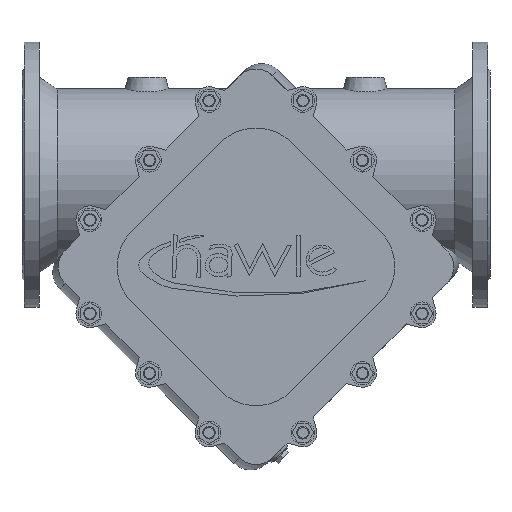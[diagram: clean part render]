
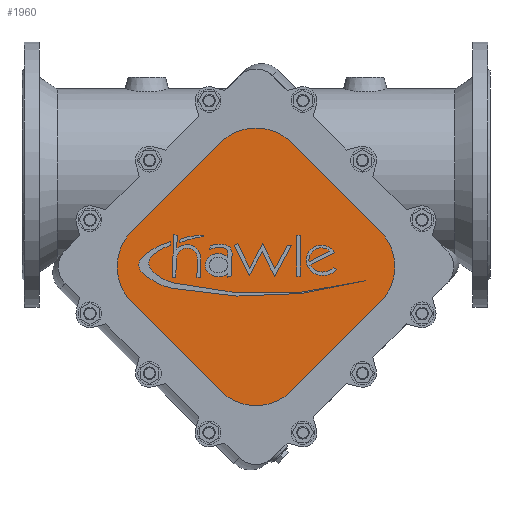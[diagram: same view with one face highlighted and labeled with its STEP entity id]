
A CAD part, front view. The second image highlights one B-rep face of the part: STEP entity #1960.
In plain terms, the highlighted planar face has unit normal (0, -1, 0).
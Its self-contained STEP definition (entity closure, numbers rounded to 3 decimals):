
#1960=ADVANCED_FACE('',(#3883),#3884,.T.);
#3883=FACE_OUTER_BOUND('',#6296,.T.);
#3884=PLANE('',#6297);
#6296=EDGE_LOOP('',(#9777,#9778,#9779,#9780,#9781,#9782,#9783,#9784,#9785,#9786));
#6297=AXIS2_PLACEMENT_3D('',#9787,#9788,#9789);
#9777=ORIENTED_EDGE('',*,*,#13837,.F.);
#9778=ORIENTED_EDGE('',*,*,#13619,.F.);
#9779=ORIENTED_EDGE('',*,*,#13643,.F.);
#9780=ORIENTED_EDGE('',*,*,#14113,.F.);
#9781=ORIENTED_EDGE('',*,*,#14114,.F.);
#9782=ORIENTED_EDGE('',*,*,#14115,.F.);
#9783=ORIENTED_EDGE('',*,*,#13047,.F.);
#9784=ORIENTED_EDGE('',*,*,#13658,.F.);
#9785=ORIENTED_EDGE('',*,*,#13798,.F.);
#9786=ORIENTED_EDGE('',*,*,#14116,.F.);
#9787=CARTESIAN_POINT('',(-300.,-190.0,-118.));
#9788=DIRECTION('',(0.0,-1.0,0.0));
#9789=DIRECTION('',(1.0,0.0,0.0));
#13047=EDGE_CURVE('',#15324,#15326,#15327,.T.);
#13619=EDGE_CURVE('',#16279,#16282,#16283,.T.);
#13643=EDGE_CURVE('',#16320,#16279,#16322,.T.);
#13658=EDGE_CURVE('',#16341,#15324,#16343,.T.);
#13798=EDGE_CURVE('',#16563,#16341,#16564,.T.);
#13837=EDGE_CURVE('',#16282,#16622,#16623,.T.);
#14113=EDGE_CURVE('',#17020,#16320,#17021,.T.);
#14114=EDGE_CURVE('',#17022,#17020,#17023,.T.);
#14115=EDGE_CURVE('',#15326,#17022,#17024,.T.);
#14116=EDGE_CURVE('',#16622,#16563,#17025,.T.);
#15324=VERTEX_POINT('',#18464);
#15326=VERTEX_POINT('',#18467);
#15327=CIRCLE('',#18468,65.0);
#16279=VERTEX_POINT('',#19972);
#16282=VERTEX_POINT('',#19976);
#16283=CIRCLE('',#19977,65.0);
#16320=VERTEX_POINT('',#20025);
#16322=CIRCLE('',#20028,65.0);
#16341=VERTEX_POINT('',#20054);
#16343=CIRCLE('',#20057,65.0);
#16563=VERTEX_POINT('',#20594);
#16564=LINE('',#20595,#20596);
#16622=VERTEX_POINT('',#20670);
#16623=LINE('',#20671,#20672);
#17020=VERTEX_POINT('',#21373);
#17021=LINE('',#21374,#21375);
#17022=VERTEX_POINT('',#21376);
#17023=CIRCLE('',#21377,65.);
#17024=LINE('',#21378,#21379);
#17025=CIRCLE('',#21380,65.);
#18464=CARTESIAN_POINT('',(-122.,-190.0,-118.0));
#18467=CARTESIAN_POINT('',(-141.038,-190.0,-163.962));
#18468=AXIS2_PLACEMENT_3D('',#23048,#23049,#23050);
#19972=CARTESIAN_POINT('',(-478.,-190.0,-118.0));
#19976=CARTESIAN_POINT('',(-458.962,-190.0,-72.038));
#19977=AXIS2_PLACEMENT_3D('',#23794,#23795,#23796);
#20025=CARTESIAN_POINT('',(-458.962,-190.0,-163.962));
#20028=AXIS2_PLACEMENT_3D('',#23827,#23828,#23829);
#20054=CARTESIAN_POINT('',(-141.038,-190.0,-72.038));
#20057=AXIS2_PLACEMENT_3D('',#23841,#23842,#23843);
#20594=CARTESIAN_POINT('',(-254.038,-190.0,40.962));
#20595=CARTESIAN_POINT('',(-141.038,-190.0,-72.038));
#20596=VECTOR('',#24021,1.0);
#20670=CARTESIAN_POINT('',(-345.962,-190.0,40.962));
#20671=CARTESIAN_POINT('',(-345.962,-190.0,40.962));
#20672=VECTOR('',#24068,1.0);
#21373=CARTESIAN_POINT('',(-345.962,-190.0,-276.962));
#21374=CARTESIAN_POINT('',(-458.962,-190.0,-163.962));
#21375=VECTOR('',#24455,1.0);
#21376=CARTESIAN_POINT('',(-254.038,-190.0,-276.962));
#21377=AXIS2_PLACEMENT_3D('',#24456,#24457,#24458);
#21378=CARTESIAN_POINT('',(-254.038,-190.0,-276.962));
#21379=VECTOR('',#24459,1.0);
#21380=AXIS2_PLACEMENT_3D('',#24460,#24461,#24462);
#23048=CARTESIAN_POINT('',(-187.,-190.0,-118.0));
#23049=DIRECTION('',(-0.0,1.0,0.0));
#23050=DIRECTION('',(1.0,0.0,0.0));
#23794=CARTESIAN_POINT('',(-413.,-190.0,-118.0));
#23795=DIRECTION('',(-0.0,1.0,0.0));
#23796=DIRECTION('',(1.0,0.0,0.0));
#23827=CARTESIAN_POINT('',(-413.,-190.0,-118.0));
#23828=DIRECTION('',(-0.0,1.0,0.0));
#23829=DIRECTION('',(1.0,0.0,0.0));
#23841=CARTESIAN_POINT('',(-187.,-190.0,-118.0));
#23842=DIRECTION('',(-0.0,1.0,0.0));
#23843=DIRECTION('',(1.0,0.0,0.0));
#24021=DIRECTION('',(0.707,0.0,-0.707));
#24068=DIRECTION('',(0.707,0.0,0.707));
#24455=DIRECTION('',(-0.707,0.0,0.707));
#24456=CARTESIAN_POINT('',(-300.0,-190.0,-231.));
#24457=DIRECTION('',(-0.0,1.0,0.0));
#24458=DIRECTION('',(1.0,0.0,0.0));
#24459=DIRECTION('',(-0.707,0.0,-0.707));
#24460=CARTESIAN_POINT('',(-300.0,-190.0,-5.));
#24461=DIRECTION('',(-0.0,1.0,0.0));
#24462=DIRECTION('',(1.0,0.0,0.0));
